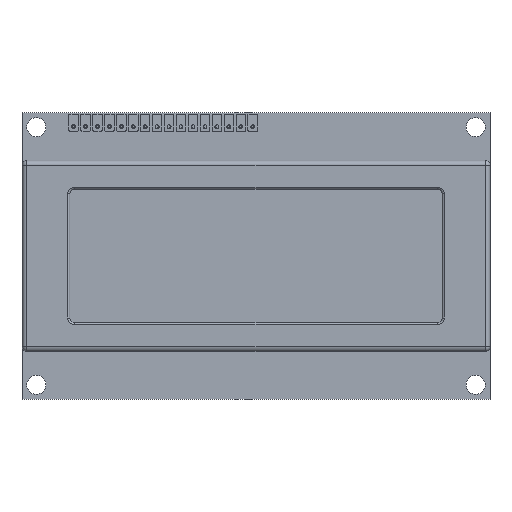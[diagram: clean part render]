
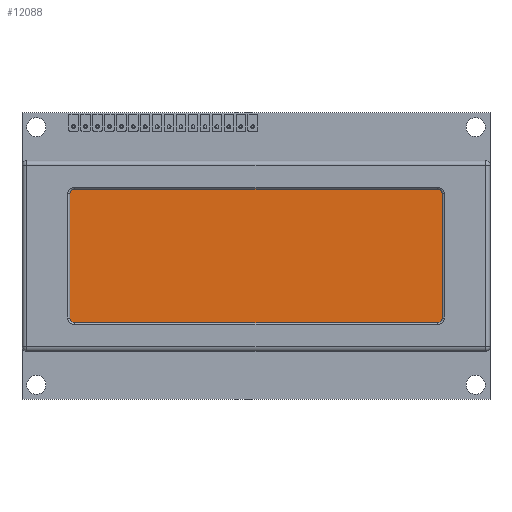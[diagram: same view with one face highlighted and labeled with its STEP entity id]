
A CAD part, top view. The second image highlights one B-rep face of the part: STEP entity #12088.
In plain terms, the highlighted planar face has unit normal (0, 0, 1).
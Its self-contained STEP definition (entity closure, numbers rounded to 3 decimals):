
#10735 = PLANE('',#10736);
#10736 = AXIS2_PLACEMENT_3D('',#10737,#10738,#10739);
#10737 = CARTESIAN_POINT('',(39.,-14.,9.));
#10738 = DIRECTION('',(0.,1.,0.));
#10739 = DIRECTION('',(-1.,0.,0.));
#10814 = CYLINDRICAL_SURFACE('',#10815,1.);
#10815 = AXIS2_PLACEMENT_3D('',#10816,#10817,#10818);
#10816 = CARTESIAN_POINT('',(38.,-13.,9.));
#10817 = DIRECTION('',(-0.,-0.,-1.));
#10818 = DIRECTION('',(1.,0.,0.));
#10870 = CYLINDRICAL_SURFACE('',#10871,1.);
#10871 = AXIS2_PLACEMENT_3D('',#10872,#10873,#10874);
#10872 = CARTESIAN_POINT('',(-38.,-13.,9.));
#10873 = DIRECTION('',(-0.,-0.,-1.));
#10874 = DIRECTION('',(0.,-1.,0.));
#10923 = PLANE('',#10924);
#10924 = AXIS2_PLACEMENT_3D('',#10925,#10926,#10927);
#10925 = CARTESIAN_POINT('',(39.,14.,9.));
#10926 = DIRECTION('',(-1.,0.,0.));
#10927 = DIRECTION('',(0.,-1.,0.));
#10957 = PLANE('',#10958);
#10958 = AXIS2_PLACEMENT_3D('',#10959,#10960,#10961);
#10959 = CARTESIAN_POINT('',(-39.,-14.,9.));
#10960 = DIRECTION('',(1.,0.,0.));
#10961 = DIRECTION('',(0.,1.,0.));
#11036 = CYLINDRICAL_SURFACE('',#11037,1.);
#11037 = AXIS2_PLACEMENT_3D('',#11038,#11039,#11040);
#11038 = CARTESIAN_POINT('',(38.,13.,9.));
#11039 = DIRECTION('',(-0.,-0.,-1.));
#11040 = DIRECTION('',(0.,1.,0.));
#11092 = CYLINDRICAL_SURFACE('',#11093,1.);
#11093 = AXIS2_PLACEMENT_3D('',#11094,#11095,#11096);
#11094 = CARTESIAN_POINT('',(-38.,13.,9.));
#11095 = DIRECTION('',(-0.,-0.,-1.));
#11096 = DIRECTION('',(0.,1.,0.));
#11122 = PLANE('',#11123);
#11123 = AXIS2_PLACEMENT_3D('',#11124,#11125,#11126);
#11124 = CARTESIAN_POINT('',(-39.,14.,9.));
#11125 = DIRECTION('',(0.,-1.,0.));
#11126 = DIRECTION('',(1.,0.,0.));
#11557 = VERTEX_POINT('',#11558);
#11558 = CARTESIAN_POINT('',(38.,-14.,8.));
#11579 = EDGE_CURVE('',#11557,#11580,#11582,.T.);
#11580 = VERTEX_POINT('',#11581);
#11581 = CARTESIAN_POINT('',(-38.,-14.,8.));
#11582 = SURFACE_CURVE('',#11583,(#11587,#11594),.PCURVE_S1.);
#11583 = LINE('',#11584,#11585);
#11584 = CARTESIAN_POINT('',(39.,-14.,8.));
#11585 = VECTOR('',#11586,1.);
#11586 = DIRECTION('',(-1.,0.,0.));
#11587 = PCURVE('',#10735,#11588);
#11588 = DEFINITIONAL_REPRESENTATION('',(#11589),#11593);
#11589 = LINE('',#11590,#11591);
#11590 = CARTESIAN_POINT('',(0.,-1.));
#11591 = VECTOR('',#11592,1.);
#11592 = DIRECTION('',(1.,0.));
#11593 = ( GEOMETRIC_REPRESENTATION_CONTEXT(2) 
PARAMETRIC_REPRESENTATION_CONTEXT() REPRESENTATION_CONTEXT('2D SPACE',''
  ) );
#11594 = PCURVE('',#11595,#11600);
#11595 = PLANE('',#11596);
#11596 = AXIS2_PLACEMENT_3D('',#11597,#11598,#11599);
#11597 = CARTESIAN_POINT('',(0.,0.,8.));
#11598 = DIRECTION('',(-0.,-0.,-1.));
#11599 = DIRECTION('',(-1.,0.,0.));
#11600 = DEFINITIONAL_REPRESENTATION('',(#11601),#11605);
#11601 = LINE('',#11602,#11603);
#11602 = CARTESIAN_POINT('',(-39.,-14.));
#11603 = VECTOR('',#11604,1.);
#11604 = DIRECTION('',(1.,0.));
#11605 = ( GEOMETRIC_REPRESENTATION_CONTEXT(2) 
PARAMETRIC_REPRESENTATION_CONTEXT() REPRESENTATION_CONTEXT('2D SPACE',''
  ) );
#11633 = VERTEX_POINT('',#11634);
#11634 = CARTESIAN_POINT('',(39.,-13.,8.));
#11657 = EDGE_CURVE('',#11633,#11557,#11658,.T.);
#11658 = SURFACE_CURVE('',#11659,(#11664,#11671),.PCURVE_S1.);
#11659 = CIRCLE('',#11660,1.);
#11660 = AXIS2_PLACEMENT_3D('',#11661,#11662,#11663);
#11661 = CARTESIAN_POINT('',(38.,-13.,8.));
#11662 = DIRECTION('',(0.,0.,-1.));
#11663 = DIRECTION('',(0.,1.,0.));
#11664 = PCURVE('',#10814,#11665);
#11665 = DEFINITIONAL_REPRESENTATION('',(#11666),#11670);
#11666 = LINE('',#11667,#11668);
#11667 = CARTESIAN_POINT('',(-1.571,1.));
#11668 = VECTOR('',#11669,1.);
#11669 = DIRECTION('',(1.,0.));
#11670 = ( GEOMETRIC_REPRESENTATION_CONTEXT(2) 
PARAMETRIC_REPRESENTATION_CONTEXT() REPRESENTATION_CONTEXT('2D SPACE',''
  ) );
#11671 = PCURVE('',#11595,#11672);
#11672 = DEFINITIONAL_REPRESENTATION('',(#11673),#11677);
#11673 = CIRCLE('',#11674,1.);
#11674 = AXIS2_PLACEMENT_2D('',#11675,#11676);
#11675 = CARTESIAN_POINT('',(-38.,-13.));
#11676 = DIRECTION('',(0.,1.));
#11677 = ( GEOMETRIC_REPRESENTATION_CONTEXT(2) 
PARAMETRIC_REPRESENTATION_CONTEXT() REPRESENTATION_CONTEXT('2D SPACE',''
  ) );
#11685 = VERTEX_POINT('',#11686);
#11686 = CARTESIAN_POINT('',(-39.,-13.,8.));
#11707 = EDGE_CURVE('',#11580,#11685,#11708,.T.);
#11708 = SURFACE_CURVE('',#11709,(#11714,#11721),.PCURVE_S1.);
#11709 = CIRCLE('',#11710,1.);
#11710 = AXIS2_PLACEMENT_3D('',#11711,#11712,#11713);
#11711 = CARTESIAN_POINT('',(-38.,-13.,8.));
#11712 = DIRECTION('',(0.,0.,-1.));
#11713 = DIRECTION('',(0.,1.,0.));
#11714 = PCURVE('',#10870,#11715);
#11715 = DEFINITIONAL_REPRESENTATION('',(#11716),#11720);
#11716 = LINE('',#11717,#11718);
#11717 = CARTESIAN_POINT('',(-3.142,1.));
#11718 = VECTOR('',#11719,1.);
#11719 = DIRECTION('',(1.,0.));
#11720 = ( GEOMETRIC_REPRESENTATION_CONTEXT(2) 
PARAMETRIC_REPRESENTATION_CONTEXT() REPRESENTATION_CONTEXT('2D SPACE',''
  ) );
#11721 = PCURVE('',#11595,#11722);
#11722 = DEFINITIONAL_REPRESENTATION('',(#11723),#11727);
#11723 = CIRCLE('',#11724,1.);
#11724 = AXIS2_PLACEMENT_2D('',#11725,#11726);
#11725 = CARTESIAN_POINT('',(38.,-13.));
#11726 = DIRECTION('',(0.,1.));
#11727 = ( GEOMETRIC_REPRESENTATION_CONTEXT(2) 
PARAMETRIC_REPRESENTATION_CONTEXT() REPRESENTATION_CONTEXT('2D SPACE',''
  ) );
#11733 = VERTEX_POINT('',#11734);
#11734 = CARTESIAN_POINT('',(39.,13.,8.));
#11755 = EDGE_CURVE('',#11733,#11633,#11756,.T.);
#11756 = SURFACE_CURVE('',#11757,(#11761,#11768),.PCURVE_S1.);
#11757 = LINE('',#11758,#11759);
#11758 = CARTESIAN_POINT('',(39.,14.,8.));
#11759 = VECTOR('',#11760,1.);
#11760 = DIRECTION('',(0.,-1.,0.));
#11761 = PCURVE('',#10923,#11762);
#11762 = DEFINITIONAL_REPRESENTATION('',(#11763),#11767);
#11763 = LINE('',#11764,#11765);
#11764 = CARTESIAN_POINT('',(0.,-1.));
#11765 = VECTOR('',#11766,1.);
#11766 = DIRECTION('',(1.,0.));
#11767 = ( GEOMETRIC_REPRESENTATION_CONTEXT(2) 
PARAMETRIC_REPRESENTATION_CONTEXT() REPRESENTATION_CONTEXT('2D SPACE',''
  ) );
#11768 = PCURVE('',#11595,#11769);
#11769 = DEFINITIONAL_REPRESENTATION('',(#11770),#11774);
#11770 = LINE('',#11771,#11772);
#11771 = CARTESIAN_POINT('',(-39.,14.));
#11772 = VECTOR('',#11773,1.);
#11773 = DIRECTION('',(0.,-1.));
#11774 = ( GEOMETRIC_REPRESENTATION_CONTEXT(2) 
PARAMETRIC_REPRESENTATION_CONTEXT() REPRESENTATION_CONTEXT('2D SPACE',''
  ) );
#11782 = EDGE_CURVE('',#11685,#11783,#11785,.T.);
#11783 = VERTEX_POINT('',#11784);
#11784 = CARTESIAN_POINT('',(-39.,13.,8.));
#11785 = SURFACE_CURVE('',#11786,(#11790,#11797),.PCURVE_S1.);
#11786 = LINE('',#11787,#11788);
#11787 = CARTESIAN_POINT('',(-39.,-14.,8.));
#11788 = VECTOR('',#11789,1.);
#11789 = DIRECTION('',(0.,1.,0.));
#11790 = PCURVE('',#10957,#11791);
#11791 = DEFINITIONAL_REPRESENTATION('',(#11792),#11796);
#11792 = LINE('',#11793,#11794);
#11793 = CARTESIAN_POINT('',(0.,-1.));
#11794 = VECTOR('',#11795,1.);
#11795 = DIRECTION('',(1.,0.));
#11796 = ( GEOMETRIC_REPRESENTATION_CONTEXT(2) 
PARAMETRIC_REPRESENTATION_CONTEXT() REPRESENTATION_CONTEXT('2D SPACE',''
  ) );
#11797 = PCURVE('',#11595,#11798);
#11798 = DEFINITIONAL_REPRESENTATION('',(#11799),#11803);
#11799 = LINE('',#11800,#11801);
#11800 = CARTESIAN_POINT('',(39.,-14.));
#11801 = VECTOR('',#11802,1.);
#11802 = DIRECTION('',(0.,1.));
#11803 = ( GEOMETRIC_REPRESENTATION_CONTEXT(2) 
PARAMETRIC_REPRESENTATION_CONTEXT() REPRESENTATION_CONTEXT('2D SPACE',''
  ) );
#11831 = VERTEX_POINT('',#11832);
#11832 = CARTESIAN_POINT('',(38.,14.,8.));
#11855 = EDGE_CURVE('',#11831,#11733,#11856,.T.);
#11856 = SURFACE_CURVE('',#11857,(#11862,#11869),.PCURVE_S1.);
#11857 = CIRCLE('',#11858,1.);
#11858 = AXIS2_PLACEMENT_3D('',#11859,#11860,#11861);
#11859 = CARTESIAN_POINT('',(38.,13.,8.));
#11860 = DIRECTION('',(0.,0.,-1.));
#11861 = DIRECTION('',(0.,1.,0.));
#11862 = PCURVE('',#11036,#11863);
#11863 = DEFINITIONAL_REPRESENTATION('',(#11864),#11868);
#11864 = LINE('',#11865,#11866);
#11865 = CARTESIAN_POINT('',(0.,1.));
#11866 = VECTOR('',#11867,1.);
#11867 = DIRECTION('',(1.,0.));
#11868 = ( GEOMETRIC_REPRESENTATION_CONTEXT(2) 
PARAMETRIC_REPRESENTATION_CONTEXT() REPRESENTATION_CONTEXT('2D SPACE',''
  ) );
#11869 = PCURVE('',#11595,#11870);
#11870 = DEFINITIONAL_REPRESENTATION('',(#11871),#11875);
#11871 = CIRCLE('',#11872,1.);
#11872 = AXIS2_PLACEMENT_2D('',#11873,#11874);
#11873 = CARTESIAN_POINT('',(-38.,13.));
#11874 = DIRECTION('',(0.,1.));
#11875 = ( GEOMETRIC_REPRESENTATION_CONTEXT(2) 
PARAMETRIC_REPRESENTATION_CONTEXT() REPRESENTATION_CONTEXT('2D SPACE',''
  ) );
#11881 = VERTEX_POINT('',#11882);
#11882 = CARTESIAN_POINT('',(-38.,14.,8.));
#11905 = EDGE_CURVE('',#11881,#11783,#11906,.T.);
#11906 = SURFACE_CURVE('',#11907,(#11912,#11919),.PCURVE_S1.);
#11907 = CIRCLE('',#11908,1.);
#11908 = AXIS2_PLACEMENT_3D('',#11909,#11910,#11911);
#11909 = CARTESIAN_POINT('',(-38.,13.,8.));
#11910 = DIRECTION('',(0.,-0.,1.));
#11911 = DIRECTION('',(0.,1.,0.));
#11912 = PCURVE('',#11092,#11913);
#11913 = DEFINITIONAL_REPRESENTATION('',(#11914),#11918);
#11914 = LINE('',#11915,#11916);
#11915 = CARTESIAN_POINT('',(-0.,1.));
#11916 = VECTOR('',#11917,1.);
#11917 = DIRECTION('',(-1.,0.));
#11918 = ( GEOMETRIC_REPRESENTATION_CONTEXT(2) 
PARAMETRIC_REPRESENTATION_CONTEXT() REPRESENTATION_CONTEXT('2D SPACE',''
  ) );
#11919 = PCURVE('',#11595,#11920);
#11920 = DEFINITIONAL_REPRESENTATION('',(#11921),#11929);
#11921 = ( BOUNDED_CURVE() B_SPLINE_CURVE(2,(#11922,#11923,#11924,#11925
    ,#11926,#11927,#11928),.UNSPECIFIED.,.T.,.F.) 
B_SPLINE_CURVE_WITH_KNOTS((1,2,2,2,2,1),(-2.094,0.,
    2.094,4.189,6.283,8.378),
.UNSPECIFIED.) CURVE() GEOMETRIC_REPRESENTATION_ITEM() 
RATIONAL_B_SPLINE_CURVE((1.,0.5,1.,0.5,1.,0.5,1.)) REPRESENTATION_ITEM(
  '') );
#11922 = CARTESIAN_POINT('',(38.,14.));
#11923 = CARTESIAN_POINT('',(39.732,14.));
#11924 = CARTESIAN_POINT('',(38.866,12.5));
#11925 = CARTESIAN_POINT('',(38.,11.));
#11926 = CARTESIAN_POINT('',(37.134,12.5));
#11927 = CARTESIAN_POINT('',(36.268,14.));
#11928 = CARTESIAN_POINT('',(38.,14.));
#11929 = ( GEOMETRIC_REPRESENTATION_CONTEXT(2) 
PARAMETRIC_REPRESENTATION_CONTEXT() REPRESENTATION_CONTEXT('2D SPACE',''
  ) );
#11935 = EDGE_CURVE('',#11881,#11831,#11936,.T.);
#11936 = SURFACE_CURVE('',#11937,(#11941,#11948),.PCURVE_S1.);
#11937 = LINE('',#11938,#11939);
#11938 = CARTESIAN_POINT('',(-39.,14.,8.));
#11939 = VECTOR('',#11940,1.);
#11940 = DIRECTION('',(1.,0.,0.));
#11941 = PCURVE('',#11122,#11942);
#11942 = DEFINITIONAL_REPRESENTATION('',(#11943),#11947);
#11943 = LINE('',#11944,#11945);
#11944 = CARTESIAN_POINT('',(0.,-1.));
#11945 = VECTOR('',#11946,1.);
#11946 = DIRECTION('',(1.,0.));
#11947 = ( GEOMETRIC_REPRESENTATION_CONTEXT(2) 
PARAMETRIC_REPRESENTATION_CONTEXT() REPRESENTATION_CONTEXT('2D SPACE',''
  ) );
#11948 = PCURVE('',#11595,#11949);
#11949 = DEFINITIONAL_REPRESENTATION('',(#11950),#11954);
#11950 = LINE('',#11951,#11952);
#11951 = CARTESIAN_POINT('',(39.,14.));
#11952 = VECTOR('',#11953,1.);
#11953 = DIRECTION('',(-1.,0.));
#11954 = ( GEOMETRIC_REPRESENTATION_CONTEXT(2) 
PARAMETRIC_REPRESENTATION_CONTEXT() REPRESENTATION_CONTEXT('2D SPACE',''
  ) );
#12088 = ADVANCED_FACE('',(#12089),#11595,.F.);
#12089 = FACE_BOUND('',#12090,.F.);
#12090 = EDGE_LOOP('',(#12091,#12092,#12093,#12094,#12095,#12096,#12097,
    #12098));
#12091 = ORIENTED_EDGE('',*,*,#11935,.T.);
#12092 = ORIENTED_EDGE('',*,*,#11855,.T.);
#12093 = ORIENTED_EDGE('',*,*,#11755,.T.);
#12094 = ORIENTED_EDGE('',*,*,#11657,.T.);
#12095 = ORIENTED_EDGE('',*,*,#11579,.T.);
#12096 = ORIENTED_EDGE('',*,*,#11707,.T.);
#12097 = ORIENTED_EDGE('',*,*,#11782,.T.);
#12098 = ORIENTED_EDGE('',*,*,#11905,.F.);
